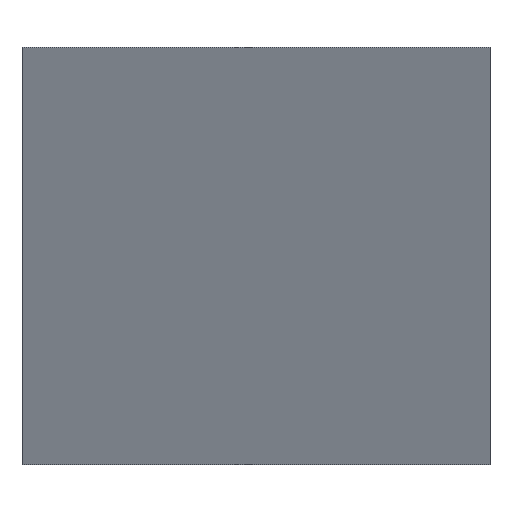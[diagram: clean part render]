
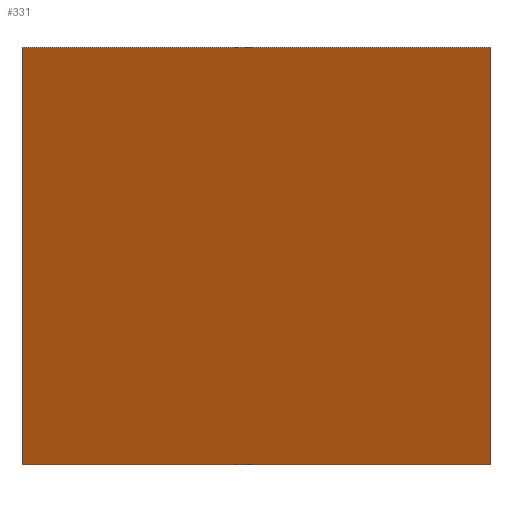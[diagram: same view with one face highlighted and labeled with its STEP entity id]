
A CAD part, left-side view. The second image highlights one B-rep face of the part: STEP entity #331.
In plain terms, the highlighted planar face has unit normal (-0.933, 0, -0.36).
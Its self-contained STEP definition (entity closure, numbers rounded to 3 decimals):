
#22 = VERTEX_POINT('',#23);
#23 = CARTESIAN_POINT('',(137.355,-138.913,
    132.048));
#32 = PLANE('',#33);
#33 = AXIS2_PLACEMENT_3D('',#34,#35,#36);
#34 = CARTESIAN_POINT('',(137.355,-138.913,
    132.048));
#35 = DIRECTION('',(0.,1.,0.));
#36 = DIRECTION('',(0.36,0.,-0.933));
#44 = PLANE('',#45);
#45 = AXIS2_PLACEMENT_3D('',#46,#47,#48);
#46 = CARTESIAN_POINT('',(137.355,-94.913,
    132.048));
#47 = DIRECTION('',(0.36,0.,-0.933));
#48 = DIRECTION('',(0.,-1.,0.));
#85 = VERTEX_POINT('',#86);
#86 = CARTESIAN_POINT('',(152.505,-138.913,
    92.818));
#100 = PLANE('',#101);
#101 = AXIS2_PLACEMENT_3D('',#102,#103,#104);
#102 = CARTESIAN_POINT('',(152.505,-138.913,
    92.818));
#103 = DIRECTION('',(-0.36,0.,0.933));
#104 = DIRECTION('',(0.,1.,0.));
#112 = EDGE_CURVE('',#22,#85,#113,.T.);
#113 = SURFACE_CURVE('',#114,(#118,#125),.PCURVE_S1.);
#114 = LINE('',#115,#116);
#115 = CARTESIAN_POINT('',(137.355,-138.913,
    132.048));
#116 = VECTOR('',#117,1.);
#117 = DIRECTION('',(0.36,0.,-0.933));
#118 = PCURVE('',#32,#119);
#119 = DEFINITIONAL_REPRESENTATION('',(#120),#124);
#120 = LINE('',#121,#122);
#121 = CARTESIAN_POINT('',(0.,0.));
#122 = VECTOR('',#123,1.);
#123 = DIRECTION('',(1.,0.));
#124 = ( GEOMETRIC_REPRESENTATION_CONTEXT(2) 
PARAMETRIC_REPRESENTATION_CONTEXT() REPRESENTATION_CONTEXT('2D SPACE',''
  ) );
#125 = PCURVE('',#126,#131);
#126 = PLANE('',#127);
#127 = AXIS2_PLACEMENT_3D('',#128,#129,#130);
#128 = CARTESIAN_POINT('',(144.93,-116.913,
    112.433));
#129 = DIRECTION('',(0.933,0.,0.36));
#130 = DIRECTION('',(-0.36,0.,0.933));
#131 = DEFINITIONAL_REPRESENTATION('',(#132),#136);
#132 = LINE('',#133,#134);
#133 = CARTESIAN_POINT('',(21.027,22.));
#134 = VECTOR('',#135,1.);
#135 = DIRECTION('',(-1.,0.));
#136 = ( GEOMETRIC_REPRESENTATION_CONTEXT(2) 
PARAMETRIC_REPRESENTATION_CONTEXT() REPRESENTATION_CONTEXT('2D SPACE',''
  ) );
#166 = VERTEX_POINT('',#167);
#167 = CARTESIAN_POINT('',(152.505,-94.913,
    92.818));
#181 = PLANE('',#182);
#182 = AXIS2_PLACEMENT_3D('',#183,#184,#185);
#183 = CARTESIAN_POINT('',(152.505,-94.913,
    92.818));
#184 = DIRECTION('',(-0.,-1.,0.));
#185 = DIRECTION('',(-0.36,0.,0.933));
#193 = EDGE_CURVE('',#85,#166,#194,.T.);
#194 = SURFACE_CURVE('',#195,(#199,#206),.PCURVE_S1.);
#195 = LINE('',#196,#197);
#196 = CARTESIAN_POINT('',(152.505,-138.913,
    92.818));
#197 = VECTOR('',#198,1.);
#198 = DIRECTION('',(0.,1.,0.));
#199 = PCURVE('',#100,#200);
#200 = DEFINITIONAL_REPRESENTATION('',(#201),#205);
#201 = LINE('',#202,#203);
#202 = CARTESIAN_POINT('',(0.,0.));
#203 = VECTOR('',#204,1.);
#204 = DIRECTION('',(1.,0.));
#205 = ( GEOMETRIC_REPRESENTATION_CONTEXT(2) 
PARAMETRIC_REPRESENTATION_CONTEXT() REPRESENTATION_CONTEXT('2D SPACE',''
  ) );
#206 = PCURVE('',#126,#207);
#207 = DEFINITIONAL_REPRESENTATION('',(#208),#212);
#208 = LINE('',#209,#210);
#209 = CARTESIAN_POINT('',(-21.027,22.));
#210 = VECTOR('',#211,1.);
#211 = DIRECTION('',(0.,-1.));
#212 = ( GEOMETRIC_REPRESENTATION_CONTEXT(2) 
PARAMETRIC_REPRESENTATION_CONTEXT() REPRESENTATION_CONTEXT('2D SPACE',''
  ) );
#242 = VERTEX_POINT('',#243);
#243 = CARTESIAN_POINT('',(137.355,-94.913,
    132.048));
#264 = EDGE_CURVE('',#166,#242,#265,.T.);
#265 = SURFACE_CURVE('',#266,(#270,#277),.PCURVE_S1.);
#266 = LINE('',#267,#268);
#267 = CARTESIAN_POINT('',(152.505,-94.913,
    92.818));
#268 = VECTOR('',#269,1.);
#269 = DIRECTION('',(-0.36,0.,0.933));
#270 = PCURVE('',#181,#271);
#271 = DEFINITIONAL_REPRESENTATION('',(#272),#276);
#272 = LINE('',#273,#274);
#273 = CARTESIAN_POINT('',(0.,0.));
#274 = VECTOR('',#275,1.);
#275 = DIRECTION('',(1.,0.));
#276 = ( GEOMETRIC_REPRESENTATION_CONTEXT(2) 
PARAMETRIC_REPRESENTATION_CONTEXT() REPRESENTATION_CONTEXT('2D SPACE',''
  ) );
#277 = PCURVE('',#126,#278);
#278 = DEFINITIONAL_REPRESENTATION('',(#279),#283);
#279 = LINE('',#280,#281);
#280 = CARTESIAN_POINT('',(-21.027,-22.));
#281 = VECTOR('',#282,1.);
#282 = DIRECTION('',(1.,0.));
#283 = ( GEOMETRIC_REPRESENTATION_CONTEXT(2) 
PARAMETRIC_REPRESENTATION_CONTEXT() REPRESENTATION_CONTEXT('2D SPACE',''
  ) );
#311 = EDGE_CURVE('',#242,#22,#312,.T.);
#312 = SURFACE_CURVE('',#313,(#317,#324),.PCURVE_S1.);
#313 = LINE('',#314,#315);
#314 = CARTESIAN_POINT('',(137.355,-94.913,
    132.048));
#315 = VECTOR('',#316,1.);
#316 = DIRECTION('',(0.,-1.,0.));
#317 = PCURVE('',#44,#318);
#318 = DEFINITIONAL_REPRESENTATION('',(#319),#323);
#319 = LINE('',#320,#321);
#320 = CARTESIAN_POINT('',(0.,-0.));
#321 = VECTOR('',#322,1.);
#322 = DIRECTION('',(1.,0.));
#323 = ( GEOMETRIC_REPRESENTATION_CONTEXT(2) 
PARAMETRIC_REPRESENTATION_CONTEXT() REPRESENTATION_CONTEXT('2D SPACE',''
  ) );
#324 = PCURVE('',#126,#325);
#325 = DEFINITIONAL_REPRESENTATION('',(#326),#330);
#326 = LINE('',#327,#328);
#327 = CARTESIAN_POINT('',(21.027,-22.));
#328 = VECTOR('',#329,1.);
#329 = DIRECTION('',(0.,1.));
#330 = ( GEOMETRIC_REPRESENTATION_CONTEXT(2) 
PARAMETRIC_REPRESENTATION_CONTEXT() REPRESENTATION_CONTEXT('2D SPACE',''
  ) );
#331 = ADVANCED_FACE('',(#332),#126,.F.);
#332 = FACE_BOUND('',#333,.F.);
#333 = EDGE_LOOP('',(#334,#335,#336,#337));
#334 = ORIENTED_EDGE('',*,*,#112,.T.);
#335 = ORIENTED_EDGE('',*,*,#193,.T.);
#336 = ORIENTED_EDGE('',*,*,#264,.T.);
#337 = ORIENTED_EDGE('',*,*,#311,.T.);
